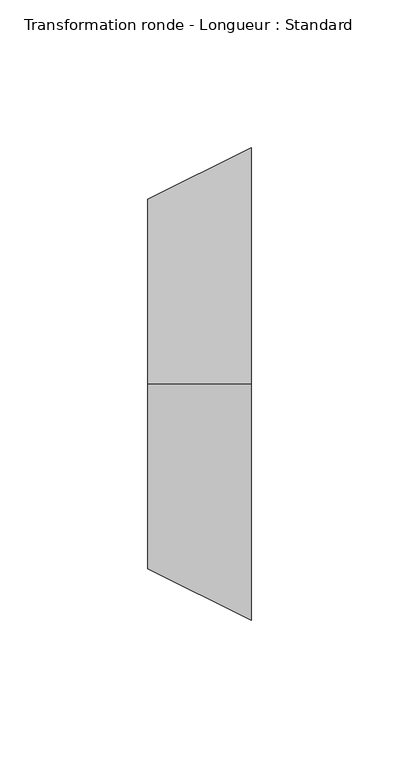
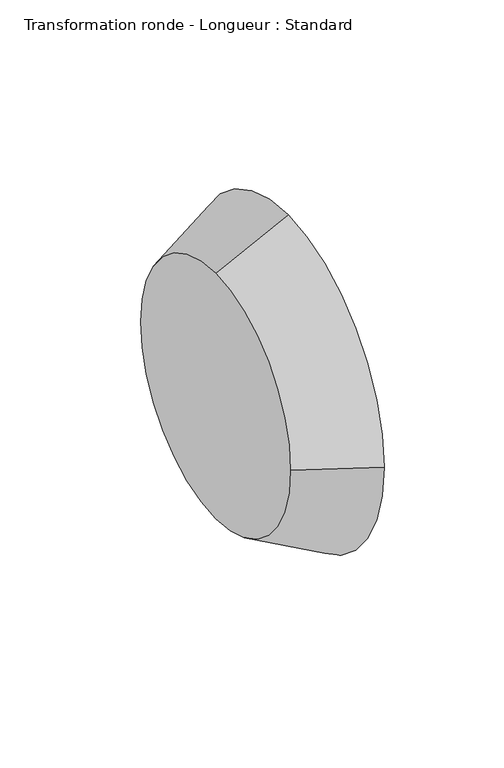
"""IFC4 building model written with IfcOpenShell, lengths in millimetres: duct fitting geometry, Transformation ronde - Longueur : Standard."""

from ifc_helpers import new_model, si_unit, frame, origin, place, context, project, spatial, polyline, circle_curve, source, transform, mapped, element, save
from ifc_brep_helpers import plane_surface, revolved_surface, advanced_brep


def transformation_ronde_longueur_standard_e9dbb60f(model_context):
    return source(origin(), model_context, "Body", "AdvancedBrep", [
        advanced_brep(
        [(35.0, 80.0, 0.0), (35.0, 0.0, 80.0), (35.0, -80.0, 0.0), (35.0, 0.0, -80.0), (0.0, 62.5, 0.0), (0.0, 0.0, -62.5), (0.0, -62.5, 0.0), (0.0, 0.0, 62.5)],
        [
            (0, 1, circle_curve(frame((35.0, 0.0, 0.0), z_axis=(1.0, 1.0925355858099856e-12, 0.0), x_axis=(-1.0925632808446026e-12, 1.0, 0.0)), 80.0)),
            (1, 2, circle_curve(frame((35.0, 0.0, 0.0), z_axis=(1.0, 1.0925355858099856e-12, 0.0), x_axis=(0.0, 0.0, 1.0)), 80.0)),
            (2, 3, circle_curve(frame((35.0, 0.0, 0.0), z_axis=(1.0, 1.0925355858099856e-12, 0.0), x_axis=(1.0925632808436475e-12, -1.0, 0.0)), 80.0)),
            (3, 0, circle_curve(frame((35.0, 0.0, 0.0), z_axis=(1.0, 1.0925355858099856e-12, 0.0), x_axis=(0.0, 0.0, -1.0)), 80.0)),
            (4, 5, circle_curve(frame((0.0, 0.0, 0.0), z_axis=(-1.0, -1.0925355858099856e-12, 0.0), x_axis=(0.0, 0.0, -1.0)), 62.5)),
            (5, 6, circle_curve(frame((0.0, 0.0, 0.0), z_axis=(-1.0, -1.0925355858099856e-12, 0.0), x_axis=(1.0925632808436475e-12, -1.0, 0.0)), 62.5)),
            (6, 7, circle_curve(frame((0.0, 0.0, 0.0), z_axis=(-1.0, -1.0925355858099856e-12, 0.0), x_axis=(0.0, 0.0, 1.0)), 62.5)),
            (7, 4, circle_curve(frame((0.0, 0.0, 0.0), z_axis=(-1.0, -1.0925355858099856e-12, 0.0), x_axis=(-1.0925632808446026e-12, 1.0, 0.0)), 62.5)),
            (0, 4),
            (7, 1),
            (6, 2),
            (5, 3),
        ],
        [
            plane_surface(frame((35.0, 0.0, 0.0), z_axis=(1.0, 0.0, 0.0), x_axis=(0.0, 0.0, 1.0))),
            plane_surface(frame((0.0, 0.0, 0.0), z_axis=(-1.0, 0.0, 0.0), x_axis=(0.0, 0.0, 1.0))),
            revolved_surface(polyline([(0.0, 0.0, 62.5), (35.0000000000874, 0.0, 80.0000000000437)]), (-125.0, 0.0, 0.0), (1.0, 1.0925355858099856e-12, 0.0)),
            revolved_surface(polyline([(0.0, -62.5, 0.0), (35.0000000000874, -80.0000000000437, 0.0)]), (-125.0, 0.0, 0.0), (1.0, 1.0925355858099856e-12, 0.0)),
            revolved_surface(polyline([(-6.828315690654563e-11, 0.0, -62.49999999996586), (35.0, 0.0, -80.0)]), (-125.0, 0.0, 0.0), (1.0, 1.0925355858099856e-12, 0.0)),
            revolved_surface(polyline([(-6.828315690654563e-11, 62.49999999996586, 0.0), (35.0, 80.0, 0.0)]), (-125.0, 0.0, 0.0), (1.0, 1.0925355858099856e-12, 0.0)),
        ],
        [
            (0, [[1, 2, 3, 4]]),
            (1, [[5, 6, 7, 8]]),
            (2, [[-1, 9, -8, 10]]),
            (3, [[-2, -10, -7, 11]]),
            (4, [[-3, -11, -6, 12]]),
            (5, [[-4, -12, -5, -9]]),
        ],
    ),
    ])


if __name__ == "__main__":
    model = new_model("IFC4")
    model_context = context("Model", 3, world=origin())
    ifc_project = project(units=[si_unit("LENGTHUNIT", "METRE", prefix="MILLI")], contexts=[model_context])
    site = spatial("IfcSite", under=ifc_project)
    building = spatial("IfcBuilding", under=site)
    placement = place(None, origin())
    transformation_ronde_longueur_standard_shape = transformation_ronde_longueur_standard_e9dbb60f(model_context)
    element("IfcDuctFitting", 1, ObjectType="Transformation ronde - Longueur : Standard", at=placement, inside=building, context=model_context, shape_type="MappedRepresentation", body=[
        mapped(transformation_ronde_longueur_standard_shape, transform((0.0, 0.0, 0.0), x_axis=(1.0, 0.0, 0.0), y_axis=(0.0, 1.0, 0.0), z_axis=(0.0, 0.0, 1.0))),
    ])
    save(model, "model.ifc")
